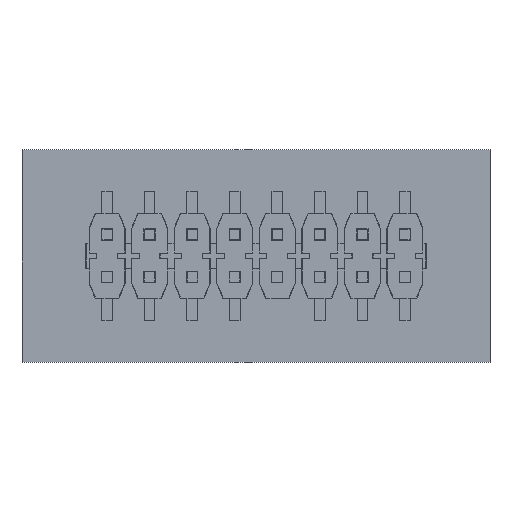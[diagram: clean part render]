
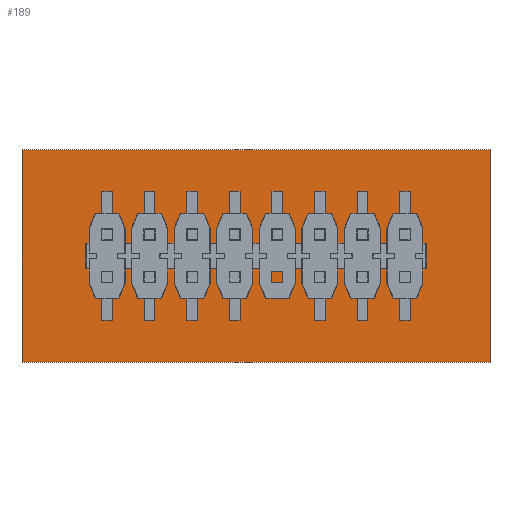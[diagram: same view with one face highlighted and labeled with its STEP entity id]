
A CAD part, top view. The second image highlights one B-rep face of the part: STEP entity #189.
In plain terms, the highlighted planar face has unit normal (0, 0, 1).
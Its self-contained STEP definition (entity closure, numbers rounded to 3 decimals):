
#60 = VERTEX_POINT('',#61);
#61 = CARTESIAN_POINT('',(0.,-0.004,1.514));
#67 = EDGE_CURVE('',#60,#68,#70,.T.);
#68 = VERTEX_POINT('',#69);
#69 = CARTESIAN_POINT('',(0.,12.7,1.514));
#70 = LINE('',#71,#72);
#71 = CARTESIAN_POINT('',(0.,-0.004,1.514));
#72 = VECTOR('',#73,1.);
#73 = DIRECTION('',(0.,1.,0.));
#98 = EDGE_CURVE('',#68,#99,#101,.T.);
#99 = VERTEX_POINT('',#100);
#100 = CARTESIAN_POINT('',(27.94,12.7,1.514));
#101 = LINE('',#102,#103);
#102 = CARTESIAN_POINT('',(0.,12.7,1.514));
#103 = VECTOR('',#104,1.);
#104 = DIRECTION('',(1.,0.,0.));
#129 = EDGE_CURVE('',#99,#130,#132,.T.);
#130 = VERTEX_POINT('',#131);
#131 = CARTESIAN_POINT('',(27.94,-0.004,1.514));
#132 = LINE('',#133,#134);
#133 = CARTESIAN_POINT('',(27.94,12.7,1.514));
#134 = VECTOR('',#135,1.);
#135 = DIRECTION('',(0.,-1.,0.));
#160 = EDGE_CURVE('',#130,#60,#161,.T.);
#161 = LINE('',#162,#163);
#162 = CARTESIAN_POINT('',(27.94,-0.004,1.514));
#163 = VECTOR('',#164,1.);
#164 = DIRECTION('',(-1.,0.,0.));
#189 = ADVANCED_FACE('',(#190),#196,.F.);
#190 = FACE_BOUND('',#191,.F.);
#191 = EDGE_LOOP('',(#192,#193,#194,#195));
#192 = ORIENTED_EDGE('',*,*,#67,.T.);
#193 = ORIENTED_EDGE('',*,*,#98,.T.);
#194 = ORIENTED_EDGE('',*,*,#129,.T.);
#195 = ORIENTED_EDGE('',*,*,#160,.T.);
#196 = PLANE('',#197);
#197 = AXIS2_PLACEMENT_3D('',#198,#199,#200);
#198 = CARTESIAN_POINT('',(13.97,6.348,1.514));
#199 = DIRECTION('',(-0.,-0.,-1.));
#200 = DIRECTION('',(-1.,0.,0.));
